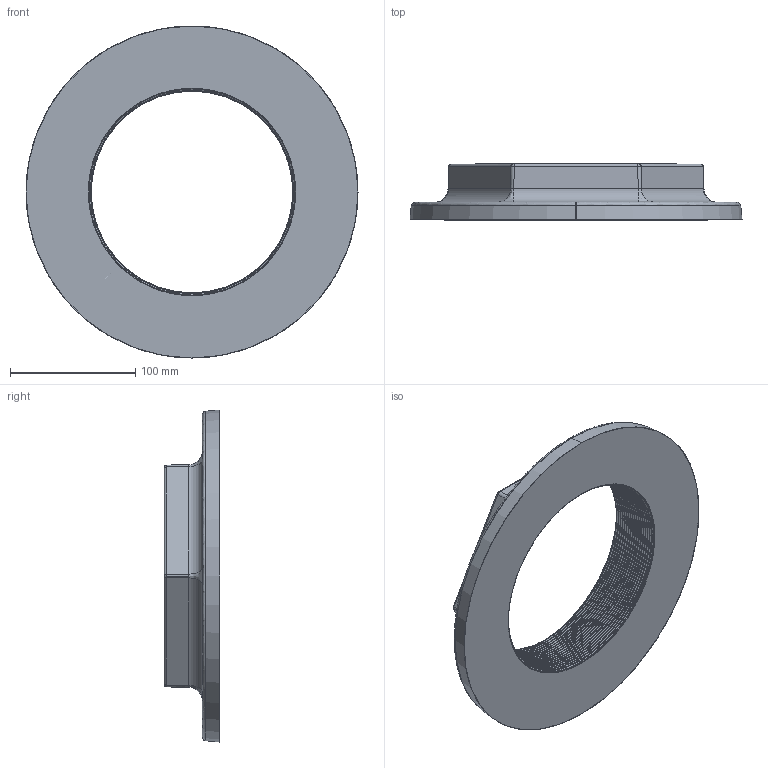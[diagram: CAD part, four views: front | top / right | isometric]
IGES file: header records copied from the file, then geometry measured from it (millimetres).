
Start section: SolidWorks IGES file using analytic representation for surfaces
Global section: file name: C:\Users\Joel Rosa\Desktop\Tubulação\12-99-OK\12-99-016.IGS; native system: SolidWorks 2011; preprocessor: SolidWorks 2011; author: Joel Rosa; date: 131021.215822; units: millimetre
Bounding box: 265 x 44.5 x 265 mm (x, y, z)
Surface area: 129948.3 mm2 (no closed solid volume)
Topology: 0 solids, 0 shells, 314 faces, 2368 edges, 2368 vertices
Faces by surface type: bspline 213, revolution 101
